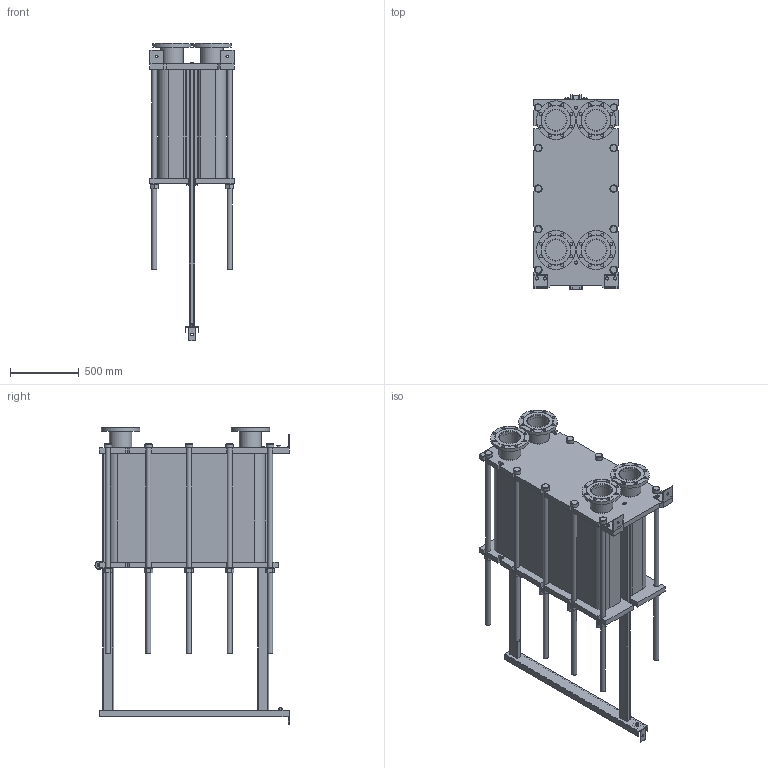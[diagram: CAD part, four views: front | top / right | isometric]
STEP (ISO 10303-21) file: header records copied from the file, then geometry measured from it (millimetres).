
FILE_DESCRIPTION(/* description */ (''),/* implementation_level */ '2;1');
FILE_NAME(/* name */ 'C:\Users\zhuro\Desktop\ENCO\TO\ЭН-041\ЭН-0,5-041-229-1.stp',/* time_stamp */ '2022-06-06T11:07:50+03:00',/* author */ ('zhuro'),/* organization */ (''),/* preprocessor_version */ 'ST-DEVELOPER v18.1',/* originating_system */ 'Autodesk Inventor 2022',/* authorisation */ '');
FILE_SCHEMA (('AUTOMOTIVE_DESIGN { 1 0 10303 214 3 1 1 }'));
Length unit declared in the file: millimetre
Products named in the file (1): ЭН-0,5-041-229-1
Bounding box: 610 x 1406.5 x 2157.5 mm (x, y, z)
Volume: 533891884.1 mm3; surface area: 11868855.3 mm2
Topology: 52 solids, 52 shells, 711 faces, 1696 edges, 1094 vertices
Faces by surface type: plane 487, cylinder 177, cone 41, torus 6
Full cylindrical faces by diameter (mm): 8 x4, 10 x2, 16 x8, 18 x3, 22 x32, 36 x24, 50 x1, 54 x10, 60 x12, 151 x4, 161 x8, 280 x4
Entity records: 22667 total; most frequent: CARTESIAN_POINT 5230, DIRECTION 3644, ORIENTED_EDGE 3392, EDGE_CURVE 1696, AXIS2_PLACEMENT_3D 1272, LINE 1100, VECTOR 1100, VERTEX_POINT 1094
